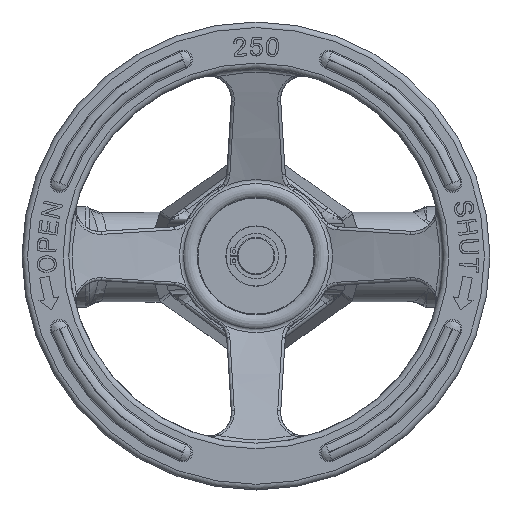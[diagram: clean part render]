
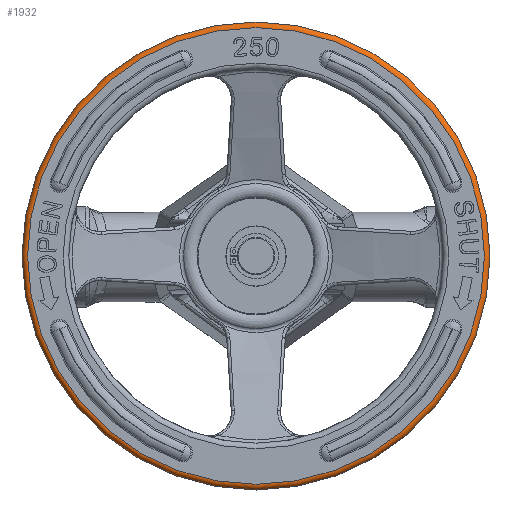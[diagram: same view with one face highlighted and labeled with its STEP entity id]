
A CAD part, top view. The second image highlights one B-rep face of the part: STEP entity #1932.
In plain terms, the highlighted toroidal (fillet/blend) face has major radius 122 mm and minor radius 3 mm.
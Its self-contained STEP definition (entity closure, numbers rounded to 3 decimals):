
#212=TOROIDAL_SURFACE('',#15842,122.,3.);
#1932=ADVANCED_FACE('',(#5090,#5091),#212,.T.);
#4578=CIRCLE('',#15794,122.);
#4611=CIRCLE('',#15840,125.);
#5090=FACE_BOUND('',#5604,.T.);
#5091=FACE_BOUND('',#5605,.T.);
#5604=EDGE_LOOP('',(#7751));
#5605=EDGE_LOOP('',(#7752));
#7751=ORIENTED_EDGE('',*,*,#12984,.T.);
#7752=ORIENTED_EDGE('',*,*,#13110,.F.);
#11346=VERTEX_POINT('',#25186);
#11464=VERTEX_POINT('',#25857);
#12984=EDGE_CURVE('',#11346,#11346,#4578,.T.);
#13110=EDGE_CURVE('',#11464,#11464,#4611,.T.);
#15794=AXIS2_PLACEMENT_3D('',#25185,#17833,#17834);
#15840=AXIS2_PLACEMENT_3D('',#25856,#17932,#17933);
#15842=AXIS2_PLACEMENT_3D('',#25859,#17936,#17937);
#17833=DIRECTION('',(0.,0.,-1.));
#17834=DIRECTION('',(0.,1.,0.));
#17932=DIRECTION('',(0.,0.,-1.));
#17933=DIRECTION('',(0.,1.,0.));
#17936=DIRECTION('',(0.,0.,-1.));
#17937=DIRECTION('',(0.,1.,0.));
#25185=CARTESIAN_POINT('',(0.,0.,346.));
#25186=CARTESIAN_POINT('',(0.,122.,346.));
#25856=CARTESIAN_POINT('',(0.,0.,343.));
#25857=CARTESIAN_POINT('',(0.,125.,343.));
#25859=CARTESIAN_POINT('',(0.,0.,343.));
